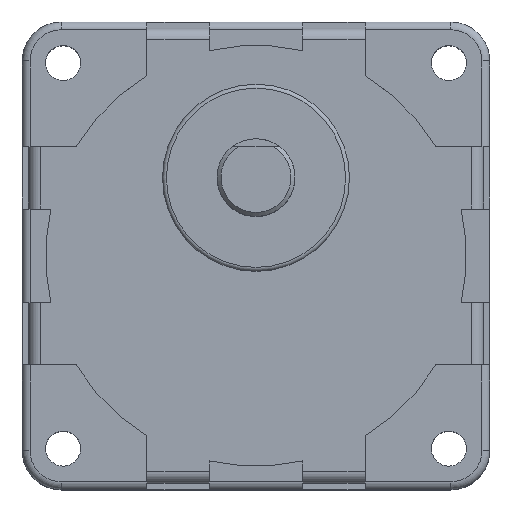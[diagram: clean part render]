
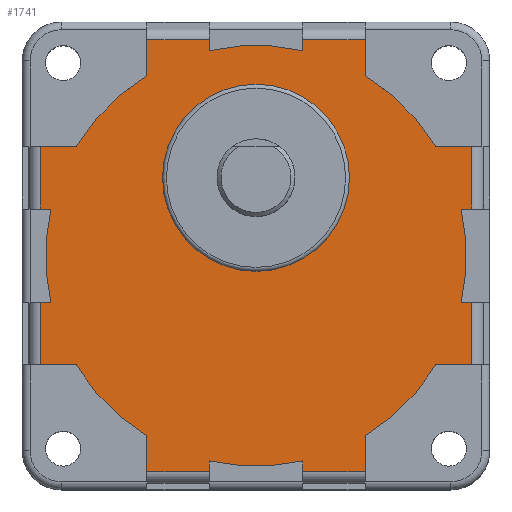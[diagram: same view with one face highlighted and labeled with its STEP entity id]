
A CAD part, top view. The second image highlights one B-rep face of the part: STEP entity #1741.
In plain terms, the highlighted planar face has unit normal (0, 0, 1).
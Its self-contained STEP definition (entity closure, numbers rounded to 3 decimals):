
#29=LINE('',#2638,#196);
#33=LINE('',#2650,#200);
#35=LINE('',#2656,#202);
#36=LINE('',#2660,#203);
#37=LINE('',#2662,#204);
#38=LINE('',#2664,#205);
#39=LINE('',#2668,#206);
#40=LINE('',#2670,#207);
#41=LINE('',#2672,#208);
#42=LINE('',#2676,#209);
#43=LINE('',#2678,#210);
#44=LINE('',#2680,#211);
#45=LINE('',#2684,#212);
#46=LINE('',#2686,#213);
#47=LINE('',#2688,#214);
#48=LINE('',#2692,#215);
#49=LINE('',#2694,#216);
#50=LINE('',#2696,#217);
#51=LINE('',#2700,#218);
#52=LINE('',#2702,#219);
#53=LINE('',#2704,#220);
#54=LINE('',#2707,#221);
#55=LINE('',#2709,#222);
#56=LINE('',#2712,#223);
#196=VECTOR('',#2099,8.);
#200=VECTOR('',#2109,8.);
#202=VECTOR('',#2115,4.613);
#203=VECTOR('',#2118,4.613);
#204=VECTOR('',#2119,8.);
#205=VECTOR('',#2120,1.375);
#206=VECTOR('',#2123,1.375);
#207=VECTOR('',#2124,8.);
#208=VECTOR('',#2125,4.613);
#209=VECTOR('',#2128,4.613);
#210=VECTOR('',#2129,8.);
#211=VECTOR('',#2130,1.375);
#212=VECTOR('',#2133,1.375);
#213=VECTOR('',#2134,8.);
#214=VECTOR('',#2135,4.613);
#215=VECTOR('',#2138,4.613);
#216=VECTOR('',#2139,8.);
#217=VECTOR('',#2140,1.375);
#218=VECTOR('',#2143,1.375);
#219=VECTOR('',#2144,8.);
#220=VECTOR('',#2145,4.613);
#221=VECTOR('',#2148,4.613);
#222=VECTOR('',#2149,1.375);
#223=VECTOR('',#2152,1.375);
#364=PLANE('',#1867);
#461=FACE_BOUND('',#602,.T.);
#488=FACE_OUTER_BOUND('',#601,.T.);
#601=EDGE_LOOP('',(#1269,#1270,#1271,#1272,#1273,#1274,#1275,#1276,#1277,
#1278,#1279,#1280,#1281,#1282,#1283,#1284,#1285,#1286,#1287,#1288,#1289,
#1290,#1291,#1292,#1293,#1294,#1295,#1296,#1297,#1298,#1299,#1300));
#602=EDGE_LOOP('',(#1301));
#711=CIRCLE('',#1858,12.);
#716=CIRCLE('',#1868,27.);
#717=CIRCLE('',#1869,27.);
#718=CIRCLE('',#1870,27.);
#719=CIRCLE('',#1871,27.);
#720=CIRCLE('',#1872,27.);
#721=CIRCLE('',#1873,27.);
#722=CIRCLE('',#1874,27.);
#723=CIRCLE('',#1875,27.);
#805=VERTEX_POINT('',#2627);
#806=VERTEX_POINT('',#2631);
#809=VERTEX_POINT('',#2636);
#813=VERTEX_POINT('',#2647);
#814=VERTEX_POINT('',#2649);
#816=VERTEX_POINT('',#2655);
#817=VERTEX_POINT('',#2657);
#818=VERTEX_POINT('',#2659);
#819=VERTEX_POINT('',#2661);
#820=VERTEX_POINT('',#2663);
#821=VERTEX_POINT('',#2665);
#822=VERTEX_POINT('',#2667);
#823=VERTEX_POINT('',#2669);
#824=VERTEX_POINT('',#2671);
#825=VERTEX_POINT('',#2673);
#826=VERTEX_POINT('',#2675);
#827=VERTEX_POINT('',#2677);
#828=VERTEX_POINT('',#2679);
#829=VERTEX_POINT('',#2681);
#830=VERTEX_POINT('',#2683);
#831=VERTEX_POINT('',#2685);
#832=VERTEX_POINT('',#2687);
#833=VERTEX_POINT('',#2689);
#834=VERTEX_POINT('',#2691);
#835=VERTEX_POINT('',#2693);
#836=VERTEX_POINT('',#2695);
#837=VERTEX_POINT('',#2697);
#838=VERTEX_POINT('',#2699);
#839=VERTEX_POINT('',#2701);
#840=VERTEX_POINT('',#2703);
#841=VERTEX_POINT('',#2705);
#842=VERTEX_POINT('',#2708);
#843=VERTEX_POINT('',#2710);
#982=EDGE_CURVE('',#805,#805,#711,.T.);
#986=EDGE_CURVE('',#809,#806,#29,.T.);
#991=EDGE_CURVE('',#813,#814,#33,.T.);
#994=EDGE_CURVE('',#809,#816,#35,.T.);
#995=EDGE_CURVE('',#817,#816,#716,.T.);
#996=EDGE_CURVE('',#818,#817,#36,.T.);
#997=EDGE_CURVE('',#819,#818,#37,.T.);
#998=EDGE_CURVE('',#820,#819,#38,.T.);
#999=EDGE_CURVE('',#821,#820,#717,.T.);
#1000=EDGE_CURVE('',#821,#822,#39,.T.);
#1001=EDGE_CURVE('',#823,#822,#40,.T.);
#1002=EDGE_CURVE('',#823,#824,#41,.T.);
#1003=EDGE_CURVE('',#825,#824,#718,.T.);
#1004=EDGE_CURVE('',#826,#825,#42,.T.);
#1005=EDGE_CURVE('',#827,#826,#43,.T.);
#1006=EDGE_CURVE('',#828,#827,#44,.T.);
#1007=EDGE_CURVE('',#829,#828,#719,.T.);
#1008=EDGE_CURVE('',#829,#830,#45,.T.);
#1009=EDGE_CURVE('',#831,#830,#46,.T.);
#1010=EDGE_CURVE('',#831,#832,#47,.T.);
#1011=EDGE_CURVE('',#833,#832,#720,.T.);
#1012=EDGE_CURVE('',#834,#833,#48,.T.);
#1013=EDGE_CURVE('',#835,#834,#49,.T.);
#1014=EDGE_CURVE('',#836,#835,#50,.T.);
#1015=EDGE_CURVE('',#837,#836,#721,.T.);
#1016=EDGE_CURVE('',#837,#838,#51,.T.);
#1017=EDGE_CURVE('',#839,#838,#52,.T.);
#1018=EDGE_CURVE('',#839,#840,#53,.T.);
#1019=EDGE_CURVE('',#841,#840,#722,.T.);
#1020=EDGE_CURVE('',#814,#841,#54,.T.);
#1021=EDGE_CURVE('',#842,#813,#55,.T.);
#1022=EDGE_CURVE('',#843,#842,#723,.T.);
#1023=EDGE_CURVE('',#843,#806,#56,.T.);
#1269=ORIENTED_EDGE('',*,*,#986,.F.);
#1270=ORIENTED_EDGE('',*,*,#994,.T.);
#1271=ORIENTED_EDGE('',*,*,#995,.F.);
#1272=ORIENTED_EDGE('',*,*,#996,.F.);
#1273=ORIENTED_EDGE('',*,*,#997,.F.);
#1274=ORIENTED_EDGE('',*,*,#998,.F.);
#1275=ORIENTED_EDGE('',*,*,#999,.F.);
#1276=ORIENTED_EDGE('',*,*,#1000,.T.);
#1277=ORIENTED_EDGE('',*,*,#1001,.F.);
#1278=ORIENTED_EDGE('',*,*,#1002,.T.);
#1279=ORIENTED_EDGE('',*,*,#1003,.F.);
#1280=ORIENTED_EDGE('',*,*,#1004,.F.);
#1281=ORIENTED_EDGE('',*,*,#1005,.F.);
#1282=ORIENTED_EDGE('',*,*,#1006,.F.);
#1283=ORIENTED_EDGE('',*,*,#1007,.F.);
#1284=ORIENTED_EDGE('',*,*,#1008,.T.);
#1285=ORIENTED_EDGE('',*,*,#1009,.F.);
#1286=ORIENTED_EDGE('',*,*,#1010,.T.);
#1287=ORIENTED_EDGE('',*,*,#1011,.F.);
#1288=ORIENTED_EDGE('',*,*,#1012,.F.);
#1289=ORIENTED_EDGE('',*,*,#1013,.F.);
#1290=ORIENTED_EDGE('',*,*,#1014,.F.);
#1291=ORIENTED_EDGE('',*,*,#1015,.F.);
#1292=ORIENTED_EDGE('',*,*,#1016,.T.);
#1293=ORIENTED_EDGE('',*,*,#1017,.F.);
#1294=ORIENTED_EDGE('',*,*,#1018,.T.);
#1295=ORIENTED_EDGE('',*,*,#1019,.F.);
#1296=ORIENTED_EDGE('',*,*,#1020,.F.);
#1297=ORIENTED_EDGE('',*,*,#991,.F.);
#1298=ORIENTED_EDGE('',*,*,#1021,.F.);
#1299=ORIENTED_EDGE('',*,*,#1022,.F.);
#1300=ORIENTED_EDGE('',*,*,#1023,.T.);
#1301=ORIENTED_EDGE('',*,*,#982,.F.);
#1741=ADVANCED_FACE('',(#488,#461),#364,.T.);
#1858=AXIS2_PLACEMENT_3D('',#2628,#2088,#2089);
#1867=AXIS2_PLACEMENT_3D('',#2654,#2113,#2114);
#1868=AXIS2_PLACEMENT_3D('',#2658,#2116,#2117);
#1869=AXIS2_PLACEMENT_3D('',#2666,#2121,#2122);
#1870=AXIS2_PLACEMENT_3D('',#2674,#2126,#2127);
#1871=AXIS2_PLACEMENT_3D('',#2682,#2131,#2132);
#1872=AXIS2_PLACEMENT_3D('',#2690,#2136,#2137);
#1873=AXIS2_PLACEMENT_3D('',#2698,#2141,#2142);
#1874=AXIS2_PLACEMENT_3D('',#2706,#2146,#2147);
#1875=AXIS2_PLACEMENT_3D('',#2711,#2150,#2151);
#2088=DIRECTION('center_axis',(0.,0.,1.));
#2089=DIRECTION('ref_axis',(-1.,0.,0.));
#2099=DIRECTION('',(0.,-1.,0.));
#2109=DIRECTION('',(0.,-1.,0.));
#2113=DIRECTION('center_axis',(0.,0.,1.));
#2114=DIRECTION('ref_axis',(1.,0.,0.));
#2115=DIRECTION('',(-1.,0.,0.));
#2116=DIRECTION('center_axis',(0.,0.,-1.));
#2117=DIRECTION('ref_axis',(-1.,0.,0.));
#2118=DIRECTION('',(0.,-1.,0.));
#2119=DIRECTION('',(1.,0.,0.));
#2120=DIRECTION('',(0.,1.,0.));
#2121=DIRECTION('center_axis',(0.,0.,-1.));
#2122=DIRECTION('ref_axis',(-1.,0.,0.));
#2123=DIRECTION('',(0.,1.,0.));
#2124=DIRECTION('',(1.,0.,0.));
#2125=DIRECTION('',(0.,-1.,0.));
#2126=DIRECTION('center_axis',(0.,0.,-1.));
#2127=DIRECTION('ref_axis',(-1.,0.,0.));
#2128=DIRECTION('',(1.,0.,0.));
#2129=DIRECTION('',(0.,1.,0.));
#2130=DIRECTION('',(-1.,0.,0.));
#2131=DIRECTION('center_axis',(0.,0.,-1.));
#2132=DIRECTION('ref_axis',(-1.,0.,0.));
#2133=DIRECTION('',(-1.,0.,0.));
#2134=DIRECTION('',(0.,1.,0.));
#2135=DIRECTION('',(1.,0.,0.));
#2136=DIRECTION('center_axis',(0.,0.,-1.));
#2137=DIRECTION('ref_axis',(-1.,0.,0.));
#2138=DIRECTION('',(0.,1.,0.));
#2139=DIRECTION('',(-1.,0.,0.));
#2140=DIRECTION('',(0.,-1.,0.));
#2141=DIRECTION('center_axis',(0.,0.,-1.));
#2142=DIRECTION('ref_axis',(-1.,0.,0.));
#2143=DIRECTION('',(0.,-1.,0.));
#2144=DIRECTION('',(-1.,0.,0.));
#2145=DIRECTION('',(0.,1.,0.));
#2146=DIRECTION('center_axis',(0.,0.,-1.));
#2147=DIRECTION('ref_axis',(-1.,0.,0.));
#2148=DIRECTION('',(-1.,0.,0.));
#2149=DIRECTION('',(1.,0.,0.));
#2150=DIRECTION('center_axis',(0.,0.,-1.));
#2151=DIRECTION('ref_axis',(-1.,0.,0.));
#2152=DIRECTION('',(1.,0.,0.));
#2627=CARTESIAN_POINT('',(12.,10.,33.2));
#2628=CARTESIAN_POINT('Origin',(0.,10.,33.2));
#2631=CARTESIAN_POINT('',(27.7,6.,33.2));
#2636=CARTESIAN_POINT('',(27.7,14.,33.2));
#2638=CARTESIAN_POINT('',(27.7,7.,33.2));
#2647=CARTESIAN_POINT('',(27.7,-6.,33.2));
#2649=CARTESIAN_POINT('',(27.7,-14.,33.2));
#2650=CARTESIAN_POINT('',(27.7,-7.,33.2));
#2654=CARTESIAN_POINT('Origin',(0.,0.,33.2));
#2655=CARTESIAN_POINT('',(23.087,14.,33.2));
#2656=CARTESIAN_POINT('',(23.087,14.,33.2));
#2657=CARTESIAN_POINT('',(14.,23.087,33.2));
#2658=CARTESIAN_POINT('Origin',(0.,0.,33.2));
#2659=CARTESIAN_POINT('',(14.,27.7,33.2));
#2660=CARTESIAN_POINT('',(14.,23.087,33.2));
#2661=CARTESIAN_POINT('',(6.,27.7,33.2));
#2662=CARTESIAN_POINT('',(7.,27.7,33.2));
#2663=CARTESIAN_POINT('',(6.,26.325,33.2));
#2664=CARTESIAN_POINT('',(6.,30.,33.2));
#2665=CARTESIAN_POINT('',(-6.,26.325,33.2));
#2666=CARTESIAN_POINT('Origin',(0.,0.,33.2));
#2667=CARTESIAN_POINT('',(-6.,27.7,33.2));
#2668=CARTESIAN_POINT('',(-6.,30.,33.2));
#2669=CARTESIAN_POINT('',(-14.,27.7,33.2));
#2670=CARTESIAN_POINT('',(-7.,27.7,33.2));
#2671=CARTESIAN_POINT('',(-14.,23.087,33.2));
#2672=CARTESIAN_POINT('',(-14.,23.087,33.2));
#2673=CARTESIAN_POINT('',(-23.087,14.,33.2));
#2674=CARTESIAN_POINT('Origin',(0.,0.,33.2));
#2675=CARTESIAN_POINT('',(-27.7,14.,33.2));
#2676=CARTESIAN_POINT('',(-23.087,14.,33.2));
#2677=CARTESIAN_POINT('',(-27.7,6.,33.2));
#2678=CARTESIAN_POINT('',(-27.7,7.,33.2));
#2679=CARTESIAN_POINT('',(-26.325,6.,33.2));
#2680=CARTESIAN_POINT('',(-30.,6.,33.2));
#2681=CARTESIAN_POINT('',(-26.325,-6.,33.2));
#2682=CARTESIAN_POINT('Origin',(0.,0.,33.2));
#2683=CARTESIAN_POINT('',(-27.7,-6.,33.2));
#2684=CARTESIAN_POINT('',(-30.,-6.,33.2));
#2685=CARTESIAN_POINT('',(-27.7,-14.,33.2));
#2686=CARTESIAN_POINT('',(-27.7,-7.,33.2));
#2687=CARTESIAN_POINT('',(-23.087,-14.,33.2));
#2688=CARTESIAN_POINT('',(-23.087,-14.,33.2));
#2689=CARTESIAN_POINT('',(-14.,-23.087,33.2));
#2690=CARTESIAN_POINT('Origin',(0.,0.,33.2));
#2691=CARTESIAN_POINT('',(-14.,-27.7,33.2));
#2692=CARTESIAN_POINT('',(-14.,-23.087,33.2));
#2693=CARTESIAN_POINT('',(-6.,-27.7,33.2));
#2694=CARTESIAN_POINT('',(-7.,-27.7,33.2));
#2695=CARTESIAN_POINT('',(-6.,-26.325,33.2));
#2696=CARTESIAN_POINT('',(-6.,-30.,33.2));
#2697=CARTESIAN_POINT('',(6.,-26.325,33.2));
#2698=CARTESIAN_POINT('Origin',(0.,0.,33.2));
#2699=CARTESIAN_POINT('',(6.,-27.7,33.2));
#2700=CARTESIAN_POINT('',(6.,-30.,33.2));
#2701=CARTESIAN_POINT('',(14.,-27.7,33.2));
#2702=CARTESIAN_POINT('',(7.,-27.7,33.2));
#2703=CARTESIAN_POINT('',(14.,-23.087,33.2));
#2704=CARTESIAN_POINT('',(14.,-23.087,33.2));
#2705=CARTESIAN_POINT('',(23.087,-14.,33.2));
#2706=CARTESIAN_POINT('Origin',(0.,0.,33.2));
#2707=CARTESIAN_POINT('',(23.087,-14.,33.2));
#2708=CARTESIAN_POINT('',(26.325,-6.,33.2));
#2709=CARTESIAN_POINT('',(30.,-6.,33.2));
#2710=CARTESIAN_POINT('',(26.325,6.,33.2));
#2711=CARTESIAN_POINT('Origin',(0.,0.,33.2));
#2712=CARTESIAN_POINT('',(30.,6.,33.2));
